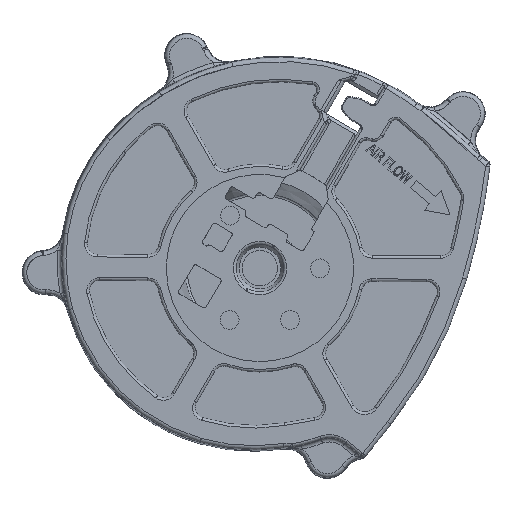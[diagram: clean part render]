
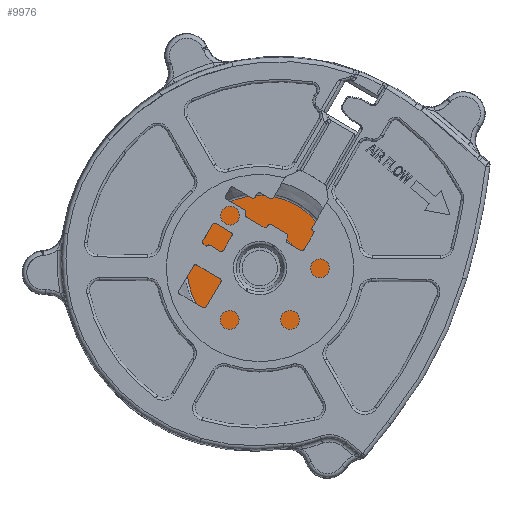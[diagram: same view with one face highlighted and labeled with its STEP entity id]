
A CAD part, top view. The second image highlights one B-rep face of the part: STEP entity #9976.
In plain terms, the highlighted planar face has unit normal (0, 0, 1).
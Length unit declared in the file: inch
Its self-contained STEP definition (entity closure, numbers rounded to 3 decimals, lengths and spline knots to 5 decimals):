
#9976=ADVANCED_FACE('',(#18135,#18136),#18137,.F.);
#10860=EDGE_CURVE('',#19458,#19461,#19462,.T.);
#10864=EDGE_CURVE('',#19461,#19458,#19466,.T.);
#10866=EDGE_CURVE('',#19468,#19469,#19470,.T.);
#10868=EDGE_CURVE('',#19469,#19468,#19472,.T.);
#18135=FACE_OUTER_BOUND('',#29954,.T.);
#18136=FACE_BOUND('',#29955,.T.);
#18137=PLANE('',#29956);
#19458=VERTEX_POINT('',#31368);
#19461=VERTEX_POINT('',#31372);
#19462=CIRCLE('',#31373,0.29528);
#19466=CIRCLE('',#31379,0.29528);
#19468=VERTEX_POINT('',#31382);
#19469=VERTEX_POINT('',#31383);
#19470=CIRCLE('',#31384,0.55168);
#19472=CIRCLE('',#31387,0.55168);
#29954=EDGE_LOOP('',(#46150,#46151));
#29955=EDGE_LOOP('',(#46152,#46153));
#29956=AXIS2_PLACEMENT_3D('',#46154,#46155,#46156);
#31368=CARTESIAN_POINT('',(1.5549,-1.45169,-0.0867));
#31372=CARTESIAN_POINT('',(2.06633,-1.74696,-0.0867));
#31373=AXIS2_PLACEMENT_3D('',#51314,#51315,#51316);
#31379=AXIS2_PLACEMENT_3D('',#51320,#51321,#51322);
#31382=CARTESIAN_POINT('',(1.32262,-1.31758,-0.0867));
#31383=CARTESIAN_POINT('',(2.27815,-1.86926,-0.0867));
#31384=AXIS2_PLACEMENT_3D('',#51323,#51324,#51325);
#31387=AXIS2_PLACEMENT_3D('',#51326,#51327,#51328);
#46150=ORIENTED_EDGE('',*,*,#10866,.F.);
#46151=ORIENTED_EDGE('',*,*,#10868,.F.);
#46152=ORIENTED_EDGE('',*,*,#10860,.F.);
#46153=ORIENTED_EDGE('',*,*,#10864,.F.);
#46154=CARTESIAN_POINT('',(2.04591,-1.73517,-0.0867));
#46155=DIRECTION('',(0.,0.,-1.0));
#46156=DIRECTION('',(1.0,0.,0.));
#51314=CARTESIAN_POINT('',(1.81061,-1.59932,-0.0867));
#51315=DIRECTION('',(0.,0.,1.0));
#51316=DIRECTION('',(-0.866,0.5,0.));
#51320=CARTESIAN_POINT('',(1.81061,-1.59932,-0.0867));
#51321=DIRECTION('',(0.,0.,1.0));
#51322=DIRECTION('',(0.866,-0.5,0.));
#51323=CARTESIAN_POINT('',(1.80039,-1.59342,-0.0867));
#51324=DIRECTION('',(0.,0.,-1.0));
#51325=DIRECTION('',(-0.866,0.5,0.));
#51326=CARTESIAN_POINT('',(1.80039,-1.59342,-0.0867));
#51327=DIRECTION('',(0.,0.,-1.0));
#51328=DIRECTION('',(0.866,-0.5,0.));
